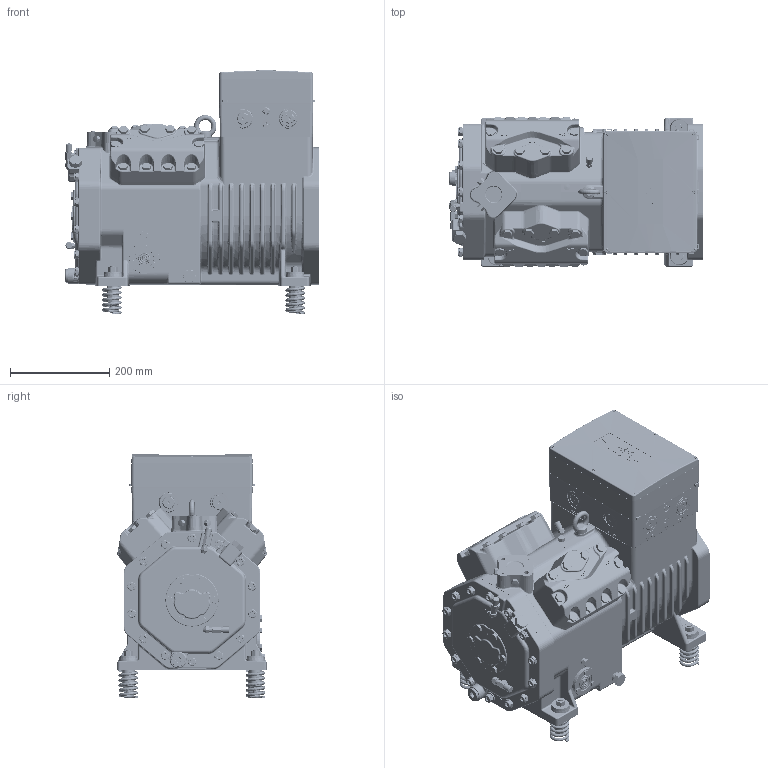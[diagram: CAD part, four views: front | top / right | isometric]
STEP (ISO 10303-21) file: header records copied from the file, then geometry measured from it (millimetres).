
FILE_DESCRIPTION(/* description */ (''),/* implementation_level */ '2;1');
FILE_NAME(/* name */ '4VE-S-4TE-S-4PE-S-4NE-S-STD.stp',/* time_stamp */ '2023-12-08T15:43:54+01:00',/* author */ (''),/* organization */ (''),/* preprocessor_version */ 'ST-DEVELOPER v19.3',/* originating_system */ 'SIEMENS PLM Software NX2212.3001',/* authorisation */ '');
FILE_SCHEMA (('AUTOMOTIVE_DESIGN { 1 0 10303 214 3 1 1 1 }'));
Products named in the file (9): DAMPER-ELEMENT-COMPL-SPR-YEL; TERMINAL-BOX-CE4; BEARING-BUSH-WITH-OIL-PUMP-C4; TERMINAL-BOX-CE4-CM-RC-02; BEARING-COVER-C4-F-VISUAL-SEN; CYLIND-HEAD-AIR-CE4-STANDARD; PLUG-1-2-14-NPTF-COATED; CE4-BODY; 4VE-S-4TE-S-4PE-S-4NE-S-STD
Assembly tree (9 placements, depth 2):
  4VE-S-4TE-S-4PE-S-4NE-S-STD
    CE4-BODY
    PLUG-1-2-14-NPTF-COATED
    CYLIND-HEAD-AIR-CE4-STANDARD  x2
    BEARING-COVER-C4-F-VISUAL-SEN
    TERMINAL-BOX-CE4-CM-RC-02
    BEARING-BUSH-WITH-OIL-PUMP-C4
    TERMINAL-BOX-CE4
    DAMPER-ELEMENT-COMPL-SPR-YEL
Bounding box: 511.54 x 303.46 x 489.49 mm (x, y, z)
Volume: 45570293 mm3; surface area: 1917536.5 mm2
Topology: 21 solids, 34 shells, 10117 faces, 25970 edges, 16348 vertices
Faces by surface type: plane 5840, cylinder 1335, bspline 1191, cone 981, torus 327, extrusion 311, sphere 126, revolution 6
Full cylindrical faces by diameter (mm): 3 x4, 3.57 x6, 4 x6, 5 x8, 6 x6, 6.3 x2, 7.4 x6, 7.938 x2, 8.5 x36, 8.88 x3, 9.76 x12, 9.838 x1, 10 x17, 10.287 x4, 10.29 x3, 11 x16, 12 x4, 12.2 x4, 12.5 x1, 13 x3, 13.716 x1, 14.16 x4, 14.59 x13, 14.63 x1, 15 x2, 16 x14, 16.16 x4, 17.356 x1, 18.782 x1, 20 x1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
Entity records: 371876 total; most frequent: CARTESIAN_POINT 125494, ORIENTED_EDGE 47454, DIRECTION 41538, EDGE_CURVE 23727, VERTEX_POINT 15395, AXIS2_PLACEMENT_3D 14056, VECTOR 13420, LINE 13125
